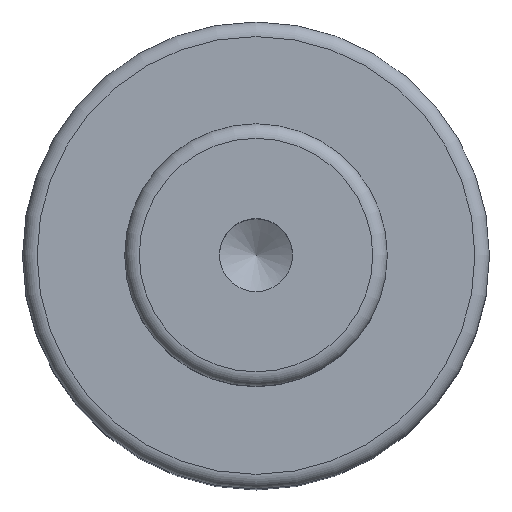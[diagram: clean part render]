
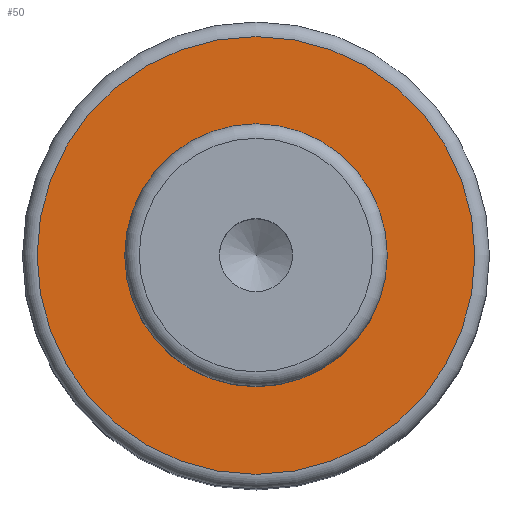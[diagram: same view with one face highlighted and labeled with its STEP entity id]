
A CAD part, top view. The second image highlights one B-rep face of the part: STEP entity #50.
In plain terms, the highlighted planar face has unit normal (0, 0, 1).
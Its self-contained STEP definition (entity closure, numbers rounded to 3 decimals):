
#40=PLANE('',#179);
#50=ADVANCED_FACE('',(#72,#73),#40,.F.);
#72=FACE_BOUND('',#96,.T.);
#73=FACE_BOUND('',#97,.T.);
#96=EDGE_LOOP('',(#118));
#97=EDGE_LOOP('',(#119));
#118=ORIENTED_EDGE('',*,*,#149,.F.);
#119=ORIENTED_EDGE('',*,*,#148,.T.);
#135=VERTEX_POINT('',#256);
#136=VERTEX_POINT('',#259);
#148=EDGE_CURVE('',#135,#135,#159,.T.);
#149=EDGE_CURVE('',#136,#136,#160,.T.);
#159=CIRCLE('',#176,9.);
#160=CIRCLE('',#178,15.);
#176=AXIS2_PLACEMENT_3D('',#255,#213,#214);
#178=AXIS2_PLACEMENT_3D('',#258,#217,#218);
#179=AXIS2_PLACEMENT_3D('',#260,#219,#220);
#213=DIRECTION('',(0.,0.,-1.));
#214=DIRECTION('',(-1.,0.,0.));
#217=DIRECTION('',(0.,0.,-1.));
#218=DIRECTION('',(-1.,0.,0.));
#219=DIRECTION('',(0.,0.,-1.));
#220=DIRECTION('',(-1.,0.,0.));
#255=CARTESIAN_POINT('',(0.,0.,42.));
#256=CARTESIAN_POINT('',(-9.,0.,42.));
#258=CARTESIAN_POINT('',(0.,0.,42.));
#259=CARTESIAN_POINT('',(-15.,0.,42.));
#260=CARTESIAN_POINT('',(9.,0.,42.));
